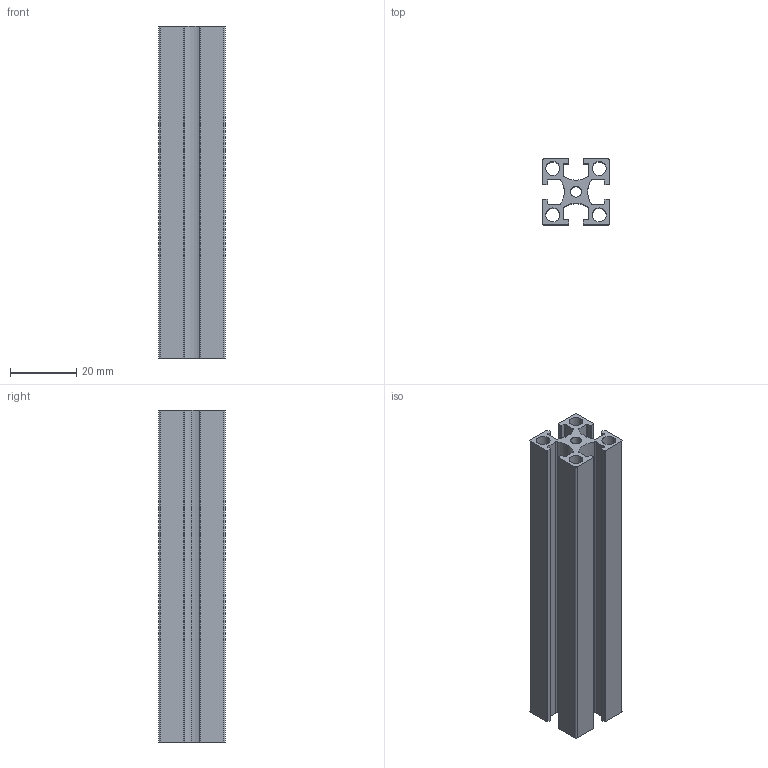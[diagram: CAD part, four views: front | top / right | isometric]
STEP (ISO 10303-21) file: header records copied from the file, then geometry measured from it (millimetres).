
FILE_DESCRIPTION (( 'STEP AP203' ), '1' );
FILE_NAME ('WS2020-4.STEP', '2024-02-17T06:03:32', ( '' ), ( '' ), 'SwSTEP 2.0', 'SolidWorks 2022', '' );
FILE_SCHEMA (( 'CONFIG_CONTROL_DESIGN' ));
Length unit declared in the file: millimetre
Products named in the file (1): WS2020-4
Bounding box: 20 x 20 x 100 mm (x, y, z)
Volume: 17026.8 mm3; surface area: 21174.1 mm2
Topology: 1 solids, 1 shells, 85 faces, 249 edges, 166 vertices
Faces by surface type: cylinder 51, plane 34
Entity records: 2962 total; most frequent: DIRECTION 523, CARTESIAN_POINT 501, ORIENTED_EDGE 498, EDGE_CURVE 249, AXIS2_PLACEMENT_3D 188, VERTEX_POINT 166, LINE 147, VECTOR 147
